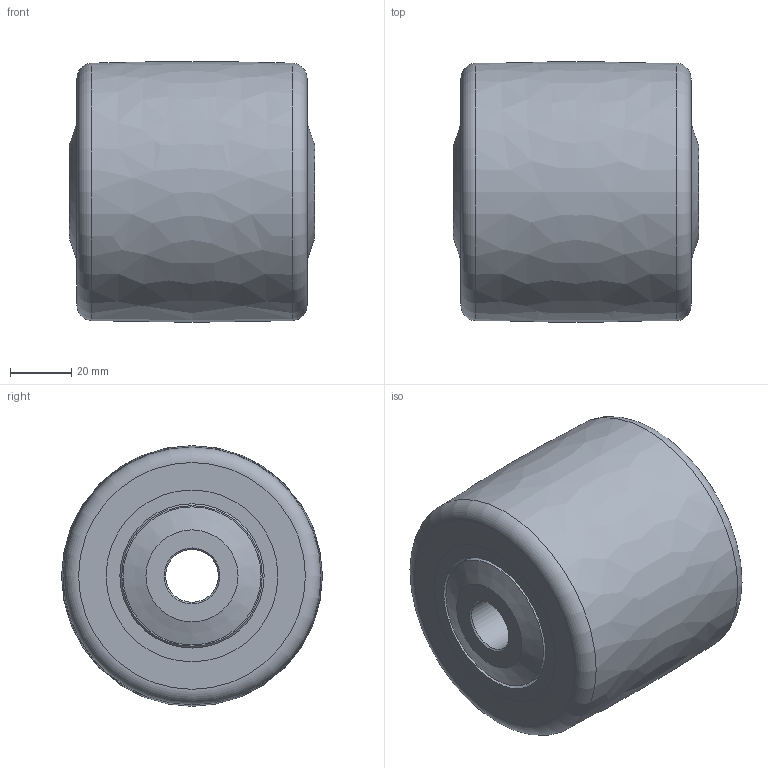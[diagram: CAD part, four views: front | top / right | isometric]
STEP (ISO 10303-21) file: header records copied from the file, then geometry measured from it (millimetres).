
FILE_DESCRIPTION(/* description */ (''),/* implementation_level */ '2;1');
FILE_NAME(/* name */ 'F:/기술영업부/홈페이지관련/2019/롤러도면/HURD-85-08017.step',/* time_stamp */ '2019-07-31T11:27:07+09:00',/* author */ (''),/* organization */ (''),/* preprocessor_version */ 'ST-DEVELOPER v18',/* originating_system */ 'Autodesk Translation Framework v8.2.0.1029',/* authorisation */ '');
FILE_SCHEMA (('AUTOMOTIVE_DESIGN { 1 0 10303 214 3 1 1 }'));
Length unit declared in the file: millimetre
Products named in the file (5): HURD-85-08017; Component1; Component2; Ball Bearing 6005; Roller_Cover D17
Assembly tree (6 placements, depth 2):
  HURD-85-08017
    Component1
    Component2
    Ball Bearing 6005  x2
    Roller_Cover D17  x2
Bounding box: 80 x 85 x 84.94 mm (x, y, z)
Volume: 351963 mm3; surface area: 98603.4 mm2
Topology: 40 solids, 40 shells, 124 faces, 336 edges, 242 vertices
Faces by surface type: cylinder 37, plane 30, sphere 28, cone 18, torus 10, bspline 1
Full cylindrical faces by diameter (mm): 17.2 x2, 24.8 x2, 25 x2, 30 x2, 32.923 x8, 39.077 x8, 41 x1, 45 x2, 47 x4, 53 x2, 56 x4
Entity records: 2508 total; most frequent: DIRECTION 472, CARTESIAN_POINT 423, ORIENTED_EDGE 340, AXIS2_PLACEMENT_3D 219, EDGE_CURVE 170, VERTEX_POINT 143, CIRCLE 136, EDGE_LOOP 91
